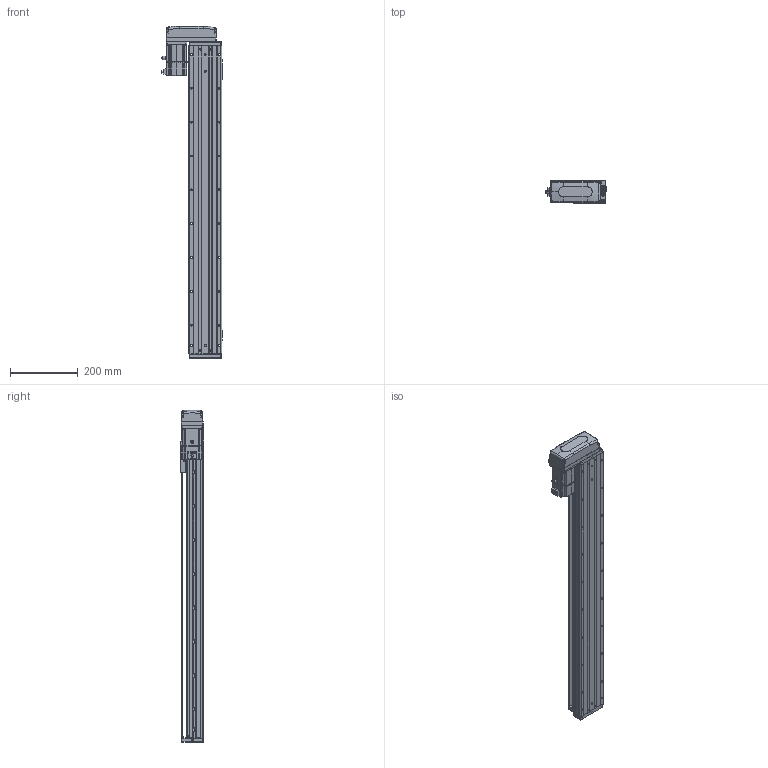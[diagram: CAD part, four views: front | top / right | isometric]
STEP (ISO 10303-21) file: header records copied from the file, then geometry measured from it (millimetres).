
FILE_DESCRIPTION (( 'STEP AP203' ), '1' );
FILE_NAME ('KTHA100-750-BR-M20-C4L.step', '2022-04-26T02:00:59', ( '微软用户' ), ( '微软中国' ), 'SwSTEP 2.0', 'SolidWorks 2020', '' );
FILE_SCHEMA (( 'CONFIG_CONTROL_DESIGN' ));
Length unit declared in the file: millimetre
Products named in the file (17): _X2_4E0983F1_X0_200W_1; KTHA100-005; GBT70.1 M5℅16; CTHA86-015-1_CTHA86-015-2; GB¨uT 70.2-M3¡Á5_M3¡Á6; CTHA86-033; EE_SX911P_R; KTHA100-750-BR-M20-C4L; CTHA60-017; KTHA100-001_910; CTHA60-021; CTHA60-016; KTHA100-002; GBT77-2000 M3×3; GBT 70.3-M3℅6; KTHA100-004; GBT 70.1-M3℅6
Assembly tree (57 placements, depth 2):
  KTHA100-750-BR-M20-C4L
    KTHA100-001_910
    KTHA100-002
    KTHA100-004
    KTHA100-005
    GB¨uT 70.2-M3¡Á5_M3¡Á6  x6
    EE_SX911P_R  x3
    CTHA60-017  x3
    CTHA60-021  x2
    GBT77-2000 M3×3  x6
    GBT 70.1-M3℅6  x10
    GBT70.1 M5℅16  x14
    CTHA60-016  x2
    GBT 70.3-M3℅6  x4
    _X2_4E0983F1_X0_200W_1
    CTHA86-015-1_CTHA86-015-2
    CTHA86-033
Bounding box: 178.52 x 68 x 981 mm (x, y, z)
Volume: 4226899.5 mm3; surface area: 687839.6 mm2
Topology: 60 solids, 60 shells, 2477 faces, 5945 edges, 3688 vertices
Faces by surface type: plane 1268, cylinder 689, cone 313, torus 116, bspline 75, sphere 16
Entity records: 43240 total; most frequent: CARTESIAN_POINT 8672, DIRECTION 6712, ORIENTED_EDGE 6502, EDGE_CURVE 3251, AXIS2_PLACEMENT_3D 2336, VERTEX_POINT 2048, LINE 2040, VECTOR 2040
